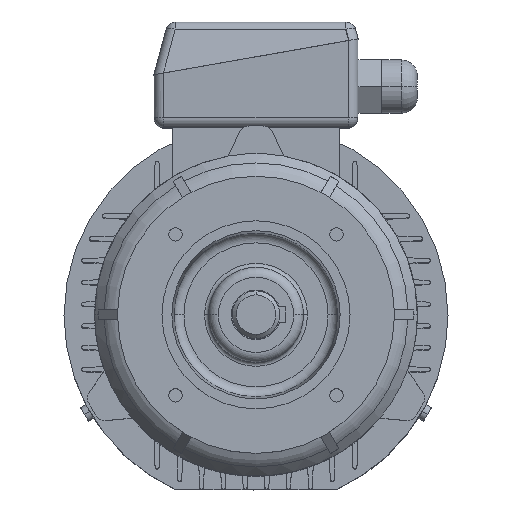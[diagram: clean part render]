
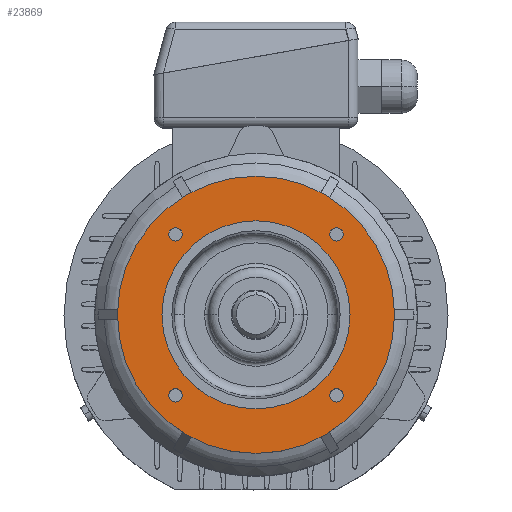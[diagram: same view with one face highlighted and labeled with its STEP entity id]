
A CAD part, top view. The second image highlights one B-rep face of the part: STEP entity #23869.
In plain terms, the highlighted planar face has unit normal (0, 0, 1).
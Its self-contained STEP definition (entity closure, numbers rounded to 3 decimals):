
#52 = CIRCLE ( 'NONE', #53, 3.4 ) ;
#53 = AXIS2_PLACEMENT_3D ( 'NONE', #54, #55, #56 ) ;
#54 = CARTESIAN_POINT ( 'NONE',  ( -40.659, 40.659, 40. ) ) ;
#55 = DIRECTION ( 'NONE',  ( 0., 0., 1. ) ) ;
#56 = DIRECTION ( 'NONE',  ( 1., 0., 0. ) ) ;
#82 = CARTESIAN_POINT ( 'NONE',  ( -37.259, -40.659, 40. ) ) ;
#282 = CIRCLE ( 'NONE', #296, 47.5 ) ;
#296 = AXIS2_PLACEMENT_3D ( 'NONE', #297, #298, #299 ) ;
#297 = CARTESIAN_POINT ( 'NONE',  ( 0., 0., 40. ) ) ;
#298 = DIRECTION ( 'NONE',  ( 0., 0., -1. ) ) ;
#299 = DIRECTION ( 'NONE',  ( -1., 0., 0. ) ) ;
#316 = EDGE_CURVE ( 'NONE', #13457, #16757, #15488, .T. ) ;
#16757 = VERTEX_POINT ( 'NONE', #9386 ) ;
#16787 = FACE_BOUND ( 'NONE', #9704, .T. ) ;
#16788 = FACE_OUTER_BOUND ( 'NONE', #7687, .T. ) ;
#16789 = FACE_BOUND ( 'NONE', #6120, .T. ) ;
#16790 = FACE_BOUND ( 'NONE', #4084, .T. ) ;
#16791 = FACE_BOUND ( 'NONE', #13690, .T. ) ;
#16792 = FACE_BOUND ( 'NONE', #11463, .T. ) ;
#16793 = PLANE ( 'NONE',  #16794 ) ;
#16794 = AXIS2_PLACEMENT_3D ( 'NONE', #16795, #16796, #16797 ) ;
#16795 = CARTESIAN_POINT ( 'NONE',  ( -70., 0., 40. ) ) ;
#16796 = DIRECTION ( 'NONE',  ( 0., 0., 1. ) ) ;
#16797 = DIRECTION ( 'NONE',  ( 1., 0., 0. ) ) ;
#17304 = CARTESIAN_POINT ( 'NONE',  ( 44.059, 40.659, 40. ) ) ;
#17848 = CIRCLE ( 'NONE', #17849, 3.4 ) ;
#17849 = AXIS2_PLACEMENT_3D ( 'NONE', #17850, #17851, #17852 ) ;
#17850 = CARTESIAN_POINT ( 'NONE',  ( 40.659, 40.659, 40. ) ) ;
#17851 = DIRECTION ( 'NONE',  ( 0., 0., 1. ) ) ;
#17852 = DIRECTION ( 'NONE',  ( 1., 0., 0. ) ) ;
#18222 = VERTEX_POINT ( 'NONE', #10407 ) ;
#2976 = VERTEX_POINT ( 'NONE', #20513 ) ;
#3076 = CIRCLE ( 'NONE', #3077, 3.4 ) ;
#3077 = AXIS2_PLACEMENT_3D ( 'NONE', #3078, #3079, #3080 ) ;
#3078 = CARTESIAN_POINT ( 'NONE',  ( -40.659, 40.659, 40. ) ) ;
#3079 = DIRECTION ( 'NONE',  ( 0., 0., 1. ) ) ;
#3080 = DIRECTION ( 'NONE',  ( 1., 0., 0. ) ) ;
#3082 = CARTESIAN_POINT ( 'NONE',  ( 37.259, 40.659, 40. ) ) ;
#3598 = EDGE_CURVE ( 'NONE', #18222, #7852, #21091, .T. ) ;
#4084 = EDGE_LOOP ( 'NONE', ( #15067, #13980 ) ) ;
#20513 = CARTESIAN_POINT ( 'NONE',  ( -37.259, 40.659, 40. ) ) ;
#4396 = ORIENTED_EDGE ( 'NONE', *, *, #3598, .F. ) ;
#21091 = CIRCLE ( 'NONE', #21092, 3.4 ) ;
#21092 = AXIS2_PLACEMENT_3D ( 'NONE', #21093, #21094, #21099 ) ;
#21093 = CARTESIAN_POINT ( 'NONE',  ( -40.659, -40.659, 40. ) ) ;
#21094 = DIRECTION ( 'NONE',  ( 0., 0., 1. ) ) ;
#21099 = DIRECTION ( 'NONE',  ( 1., 0., 0. ) ) ;
#5042 = EDGE_CURVE ( 'NONE', #7852, #18222, #22717, .T. ) ;
#5482 = ORIENTED_EDGE ( 'NONE', *, *, #5042, .F. ) ;
#5722 = CIRCLE ( 'NONE', #5723, 3.4 ) ;
#5723 = AXIS2_PLACEMENT_3D ( 'NONE', #5724, #5725, #5737 ) ;
#5724 = CARTESIAN_POINT ( 'NONE',  ( 40.659, 40.659, 40. ) ) ;
#5725 = DIRECTION ( 'NONE',  ( 0., 0., 1. ) ) ;
#5737 = DIRECTION ( 'NONE',  ( 1., 0., 0. ) ) ;
#22487 = VERTEX_POINT ( 'NONE', #14795 ) ;
#6120 = EDGE_LOOP ( 'NONE', ( #5482, #4396 ) ) ;
#22717 = CIRCLE ( 'NONE', #22718, 3.4 ) ;
#22718 = AXIS2_PLACEMENT_3D ( 'NONE', #22719, #22720, #22721 ) ;
#22719 = CARTESIAN_POINT ( 'NONE',  ( -40.659, -40.659, 40. ) ) ;
#22720 = DIRECTION ( 'NONE',  ( 0., 0., 1. ) ) ;
#22721 = DIRECTION ( 'NONE',  ( 1., 0., 0. ) ) ;
#6420 = ORIENTED_EDGE ( 'NONE', *, *, #316, .F. ) ;
#6446 = CARTESIAN_POINT ( 'NONE',  ( 70., 0., 40. ) ) ;
#6511 = VERTEX_POINT ( 'NONE', #24215 ) ;
#22882 = VERTEX_POINT ( 'NONE', #15204 ) ;
#23004 = VERTEX_POINT ( 'NONE', #15589 ) ;
#6672 = EDGE_CURVE ( 'NONE', #16757, #13457, #24327, .T. ) ;
#7058 = ORIENTED_EDGE ( 'NONE', *, *, #6672, .F. ) ;
#23464 = ORIENTED_EDGE ( 'NONE', *, *, #7772, .F. ) ;
#7149 = CARTESIAN_POINT ( 'NONE',  ( -47.5, 0., 40. ) ) ;
#7361 = EDGE_CURVE ( 'NONE', #22487, #6511, #24999, .T. ) ;
#7470 = CIRCLE ( 'NONE', #7471, 3.4 ) ;
#7471 = AXIS2_PLACEMENT_3D ( 'NONE', #7472, #7473, #7474 ) ;
#7472 = CARTESIAN_POINT ( 'NONE',  ( 40.659, -40.659, 40. ) ) ;
#7473 = DIRECTION ( 'NONE',  ( 0., 0., 1. ) ) ;
#7474 = DIRECTION ( 'NONE',  ( 1., 0., 0. ) ) ;
#23869 = ADVANCED_FACE ( 'NONE', ( #16787, #16788, #16789, #16790, #16791, #16792 ), #16793, .T. ) ;
#7687 = EDGE_LOOP ( 'NONE', ( #7058, #6420 ) ) ;
#24114 = VERTEX_POINT ( 'NONE', #17304 ) ;
#7772 = EDGE_CURVE ( 'NONE', #22882, #2976, #52, .T. ) ;
#24215 = CARTESIAN_POINT ( 'NONE',  ( 44.059, -40.659, 40. ) ) ;
#7852 = VERTEX_POINT ( 'NONE', #82 ) ;
#24327 = CIRCLE ( 'NONE', #24328, 70. ) ;
#24328 = AXIS2_PLACEMENT_3D ( 'NONE', #24329, #24330, #24331 ) ;
#24329 = CARTESIAN_POINT ( 'NONE',  ( 0., 0., 40. ) ) ;
#24330 = DIRECTION ( 'NONE',  ( 0., 0., -1. ) ) ;
#24331 = DIRECTION ( 'NONE',  ( -1., 0., 0. ) ) ;
#7975 = EDGE_CURVE ( 'NONE', #23004, #14184, #282, .T. ) ;
#24382 = EDGE_CURVE ( 'NONE', #10365, #24114, #17848, .T. ) ;
#8438 = ORIENTED_EDGE ( 'NONE', *, *, #7975, .T. ) ;
#24999 = CIRCLE ( 'NONE', #25000, 3.4 ) ;
#25000 = AXIS2_PLACEMENT_3D ( 'NONE', #25001, #25002, #25003 ) ;
#25001 = CARTESIAN_POINT ( 'NONE',  ( 40.659, -40.659, 40. ) ) ;
#25002 = DIRECTION ( 'NONE',  ( 0., 0., 1. ) ) ;
#25003 = DIRECTION ( 'NONE',  ( 1., 0., 0. ) ) ;
#8635 = CIRCLE ( 'NONE', #8636, 47.5 ) ;
#8636 = AXIS2_PLACEMENT_3D ( 'NONE', #8637, #8642, #8643 ) ;
#8637 = CARTESIAN_POINT ( 'NONE',  ( 0., 0., 40. ) ) ;
#8642 = DIRECTION ( 'NONE',  ( 0., 0., -1. ) ) ;
#8643 = DIRECTION ( 'NONE',  ( -1., 0., 0. ) ) ;
#9079 = ORIENTED_EDGE ( 'NONE', *, *, #15596, .T. ) ;
#9386 = CARTESIAN_POINT ( 'NONE',  ( -70., 0., 40. ) ) ;
#9704 = EDGE_LOOP ( 'NONE', ( #9079, #8438 ) ) ;
#10346 = EDGE_CURVE ( 'NONE', #2976, #22882, #3076, .T. ) ;
#10365 = VERTEX_POINT ( 'NONE', #3082 ) ;
#10407 = CARTESIAN_POINT ( 'NONE',  ( -44.059, -40.659, 40. ) ) ;
#10814 = ORIENTED_EDGE ( 'NONE', *, *, #10346, .F. ) ;
#11463 = EDGE_LOOP ( 'NONE', ( #10814, #23464 ) ) ;
#11758 = ORIENTED_EDGE ( 'NONE', *, *, #24382, .F. ) ;
#12606 = EDGE_CURVE ( 'NONE', #24114, #10365, #5722, .T. ) ;
#13056 = ORIENTED_EDGE ( 'NONE', *, *, #12606, .F. ) ;
#13457 = VERTEX_POINT ( 'NONE', #6446 ) ;
#13690 = EDGE_LOOP ( 'NONE', ( #13056, #11758 ) ) ;
#13980 = ORIENTED_EDGE ( 'NONE', *, *, #7361, .F. ) ;
#14184 = VERTEX_POINT ( 'NONE', #7149 ) ;
#14617 = EDGE_CURVE ( 'NONE', #6511, #22487, #7470, .T. ) ;
#14795 = CARTESIAN_POINT ( 'NONE',  ( 37.259, -40.659, 40. ) ) ;
#15067 = ORIENTED_EDGE ( 'NONE', *, *, #14617, .F. ) ;
#15204 = CARTESIAN_POINT ( 'NONE',  ( -44.059, 40.659, 40. ) ) ;
#15488 = CIRCLE ( 'NONE', #15489, 70. ) ;
#15489 = AXIS2_PLACEMENT_3D ( 'NONE', #15490, #15491, #15492 ) ;
#15490 = CARTESIAN_POINT ( 'NONE',  ( 0., 0., 40. ) ) ;
#15491 = DIRECTION ( 'NONE',  ( 0., 0., -1. ) ) ;
#15492 = DIRECTION ( 'NONE',  ( -1., 0., 0. ) ) ;
#15589 = CARTESIAN_POINT ( 'NONE',  ( 47.5, 0., 40. ) ) ;
#15596 = EDGE_CURVE ( 'NONE', #14184, #23004, #8635, .T. ) ;
